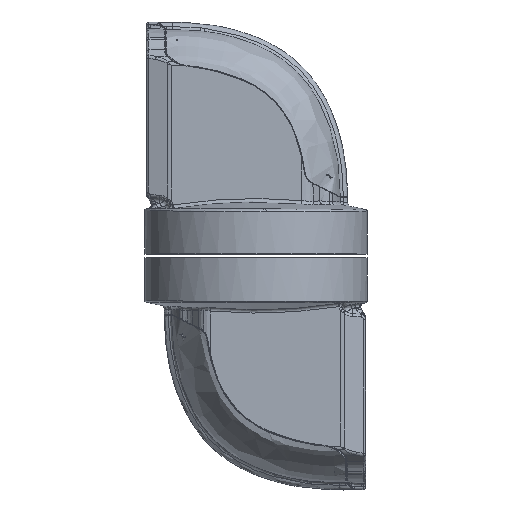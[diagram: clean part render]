
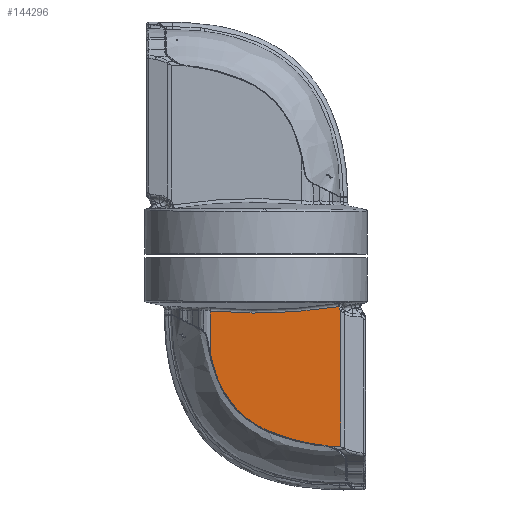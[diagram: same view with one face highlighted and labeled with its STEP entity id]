
A CAD part, top view. The second image highlights one B-rep face of the part: STEP entity #144296.
In plain terms, the highlighted planar face has unit normal (0, -0.009, 1) as drawn and (-0.009, 0, 1) by its records, which use the part's own axes.
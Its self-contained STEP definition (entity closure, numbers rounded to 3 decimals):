
#1150 = CIRCLE ( 'NONE', #125963, 284.104 ) ;
#4521 = ORIENTED_EDGE ( 'NONE', *, *, #262889, .T. ) ;
#5500 = VERTEX_POINT ( 'NONE', #189552 ) ;
#12363 = CARTESIAN_POINT ( 'NONE',  ( 117.274, -110.392, 13.677 ) ) ;
#16146 = EDGE_CURVE ( 'NONE', #22132, #228820, #1150, .T. ) ;
#17078 = CARTESIAN_POINT ( 'NONE',  ( 180.65, -157.91, 14.23 ) ) ;
#18292 = LINE ( 'NONE', #270358, #164210 ) ;
#19284 = CARTESIAN_POINT ( 'NONE',  ( 149.772, -89.061, 13.96 ) ) ;
#19419 = CARTESIAN_POINT ( 'NONE',  ( 112.494, -120.004, 13.635 ) ) ;
#20485 = CARTESIAN_POINT ( 'NONE',  ( 108.59, -129.394, 13.601 ) ) ;
#22132 = VERTEX_POINT ( 'NONE', #153492 ) ;
#23012 = CARTESIAN_POINT ( 'NONE',  ( 104.904, -149.394, 13.569 ) ) ;
#24740 = CARTESIAN_POINT ( 'NONE',  ( 106.035, -139.289, 13.579 ) ) ;
#24773 = CARTESIAN_POINT ( 'NONE',  ( 112.494, -120.004, 13.635 ) ) ;
#40847 = EDGE_CURVE ( 'NONE', #268367, #22132, #224384, .T. ) ;
#44566 = CARTESIAN_POINT ( 'NONE',  ( 149.135, -89.242, 13.955 ) ) ;
#55211 = CARTESIAN_POINT ( 'NONE',  ( 135.582, -94.157, 13.837 ) ) ;
#57616 = CARTESIAN_POINT ( 'NONE',  ( 461.242, -113.445, 16.678 ) ) ;
#60312 = EDGE_CURVE ( 'NONE', #324119, #5500, #18292, .T. ) ;
#63071 = VECTOR ( 'NONE', #290461, 1000. ) ;
#63783 = CARTESIAN_POINT ( 'NONE',  ( 154.84, -87.795, 14.005 ) ) ;
#67715 = DIRECTION ( 'NONE',  ( 0., -1., 0. ) ) ;
#69841 = CARTESIAN_POINT ( 'NONE',  ( 154.84, -87.795, 14.005 ) ) ;
#70889 = DIRECTION ( 'NONE',  ( -0.009, 0., 1. ) ) ;
#71306 = ORIENTED_EDGE ( 'NONE', *, *, #203319, .T. ) ;
#71973 = CARTESIAN_POINT ( 'NONE',  ( 104.365, -152.434, 13.564 ) ) ;
#75044 = CARTESIAN_POINT ( 'NONE',  ( 179.18, -158.634, 14.217 ) ) ;
#75365 = CARTESIAN_POINT ( 'NONE',  ( 104.904, -149.394, 13.569 ) ) ;
#87172 = B_SPLINE_CURVE_WITH_KNOTS ( 'NONE', 3,
 ( #308015, #260696, #108793, #131930 ),
 .UNSPECIFIED., .F., .F.,
 ( 4, 4 ),
 ( 0., 1. ),
 .UNSPECIFIED. ) ;
#98315 = B_SPLINE_CURVE_WITH_KNOTS ( 'NONE', 3,
 ( #69841, #199595, #144688, #120454, #19284, #195344, #44566, #123654, #271245, #296505, #145767, #321866, #273380 ),
 .UNSPECIFIED., .F., .F.,
 ( 4, 1, 1, 1, 1, 1, 2, 2, 4 ),
 ( 0., 0.25, 0.375, 0.438, 0.469, 0.484, 0.492, 0.5, 1. ),
 .UNSPECIFIED. ) ;
#105254 = CARTESIAN_POINT ( 'NONE',  ( 104.79, -150.416, 13.568 ) ) ;
#108793 = CARTESIAN_POINT ( 'NONE',  ( 141.709, -91.747, 13.89 ) ) ;
#112432 = VERTEX_POINT ( 'NONE', #23012 ) ;
#113112 = ORIENTED_EDGE ( 'NONE', *, *, #324383, .T. ) ;
#116495 = CARTESIAN_POINT ( 'NONE',  ( 143.044, -91.233, 13.901 ) ) ;
#119913 = EDGE_CURVE ( 'NONE', #228820, #324119, #186478, .T. ) ;
#120454 = CARTESIAN_POINT ( 'NONE',  ( 150.625, -88.825, 13.968 ) ) ;
#123632 = DIRECTION ( 'NONE',  ( 0., -1., 0. ) ) ;
#123654 = CARTESIAN_POINT ( 'NONE',  ( 149.044, -89.269, 13.954 ) ) ;
#125257 = AXIS2_PLACEMENT_3D ( 'NONE', #171109, #70889, #123632 ) ;
#125963 = AXIS2_PLACEMENT_3D ( 'NONE', #57616, #259010, #209490 ) ;
#128165 = VERTEX_POINT ( 'NONE', #24773 ) ;
#131930 = CARTESIAN_POINT ( 'NONE',  ( 141.045, -92.012, 13.884 ) ) ;
#137554 = ORIENTED_EDGE ( 'NONE', *, *, #231304, .T. ) ;
#142312 = CARTESIAN_POINT ( 'NONE',  ( 112.494, -120.004, 13.635 ) ) ;
#142786 = CARTESIAN_POINT ( 'NONE',  ( 113.047, -118.672, 13.64 ) ) ;
#143295 = CARTESIAN_POINT ( 'NONE',  ( 178.538, -159.142, 14.211 ) ) ;
#144296 = ADVANCED_FACE ( 'NONE', ( #180003 ), #246966, .T. ) ;
#144688 = CARTESIAN_POINT ( 'NONE',  ( 152.344, -88.372, 13.983 ) ) ;
#145767 = CARTESIAN_POINT ( 'NONE',  ( 146.868, -89.899, 13.935 ) ) ;
#148585 = CARTESIAN_POINT ( 'NONE',  ( 141.045, -92.012, 13.884 ) ) ;
#148894 = ORIENTED_EDGE ( 'NONE', *, *, #40847, .F. ) ;
#149158 = VECTOR ( 'NONE', #67715, 1000. ) ;
#153492 = CARTESIAN_POINT ( 'NONE',  ( 178.309, -87.795, 14.209 ) ) ;
#156070 = CARTESIAN_POINT ( 'NONE',  ( 121.271, -105.304, 13.712 ) ) ;
#163491 = B_SPLINE_CURVE_WITH_KNOTS ( 'NONE', 3,
 ( #279768, #55211, #271837, #156070, #12363, #298196, #142786, #142312 ),
 .UNSPECIFIED., .F., .F.,
 ( 4, 2, 2, 4 ),
 ( 0., 0.428, 0.895, 1. ),
 .UNSPECIFIED. ) ;
#164210 = VECTOR ( 'NONE', #295639, 1000. ) ;
#170306 = EDGE_CURVE ( 'NONE', #313970, #128165, #163491, .T. ) ;
#171109 = CARTESIAN_POINT ( 'NONE',  ( 183.943, -119.631, 14.259 ) ) ;
#180003 = FACE_OUTER_BOUND ( 'NONE', #195769, .T. ) ;
#181255 = CARTESIAN_POINT ( 'NONE',  ( 104.365, -152.434, 13.564 ) ) ;
#186478 = B_SPLINE_CURVE_WITH_KNOTS ( 'NONE', 3,
 ( #245607, #302824, #75044, #143295 ),
 .UNSPECIFIED., .F., .F.,
 ( 4, 4 ),
 ( 0., 1. ),
 .UNSPECIFIED. ) ;
#189552 = CARTESIAN_POINT ( 'NONE',  ( 104.365, -159.142, 13.564 ) ) ;
#195344 = CARTESIAN_POINT ( 'NONE',  ( 149.347, -89.182, 13.957 ) ) ;
#195769 = EDGE_LOOP ( 'NONE', ( #148894, #4521, #280450, #217448, #113112, #71306, #137554, #286335, #296479, #284994 ) ) ;
#199595 = CARTESIAN_POINT ( 'NONE',  ( 153.836, -88.017, 13.996 ) ) ;
#201227 = CARTESIAN_POINT ( 'NONE',  ( 178.538, -159.142, 14.211 ) ) ;
#203319 = EDGE_CURVE ( 'NONE', #112432, #262892, #224861, .T. ) ;
#209490 = DIRECTION ( 'NONE',  ( -0.996, 0.09, -0.009 ) ) ;
#216236 = LINE ( 'NONE', #244864, #149158 ) ;
#217448 = ORIENTED_EDGE ( 'NONE', *, *, #170306, .T. ) ;
#224384 = LINE ( 'NONE', #63783, #63071 ) ;
#224861 = B_SPLINE_CURVE_WITH_KNOTS ( 'NONE', 3,
 ( #283551, #105254, #232897, #181255 ),
 .UNSPECIFIED., .F., .F.,
 ( 4, 4 ),
 ( 0., 1. ),
 .UNSPECIFIED. ) ;
#228820 = VERTEX_POINT ( 'NONE', #17078 ) ;
#231304 = EDGE_CURVE ( 'NONE', #262892, #5500, #216236, .T. ) ;
#232897 = CARTESIAN_POINT ( 'NONE',  ( 104.613, -151.435, 13.566 ) ) ;
#237425 = B_SPLINE_CURVE_WITH_KNOTS ( 'NONE', 3,
 ( #19419, #20485, #24740, #75365 ),
 .UNSPECIFIED., .F., .F.,
 ( 4, 4 ),
 ( 0., 1. ),
 .UNSPECIFIED. ) ;
#244864 = CARTESIAN_POINT ( 'NONE',  ( 104.365, -152.434, 13.564 ) ) ;
#245607 = CARTESIAN_POINT ( 'NONE',  ( 180.65, -157.91, 14.23 ) ) ;
#246966 = PLANE ( 'NONE',  #125257 ) ;
#257128 = VERTEX_POINT ( 'NONE', #116495 ) ;
#259010 = DIRECTION ( 'NONE',  ( -0.009, 0., 1. ) ) ;
#260696 = CARTESIAN_POINT ( 'NONE',  ( 142.376, -91.49, 13.896 ) ) ;
#262889 = EDGE_CURVE ( 'NONE', #268367, #257128, #98315, .T. ) ;
#262892 = VERTEX_POINT ( 'NONE', #71973 ) ;
#268367 = VERTEX_POINT ( 'NONE', #280454 ) ;
#270358 = CARTESIAN_POINT ( 'NONE',  ( 178.538, -159.142, 14.211 ) ) ;
#271245 = CARTESIAN_POINT ( 'NONE',  ( 148.983, -89.286, 13.953 ) ) ;
#271837 = CARTESIAN_POINT ( 'NONE',  ( 130.529, -97.226, 13.792 ) ) ;
#273380 = CARTESIAN_POINT ( 'NONE',  ( 143.044, -91.233, 13.901 ) ) ;
#279768 = CARTESIAN_POINT ( 'NONE',  ( 141.045, -92.012, 13.884 ) ) ;
#280450 = ORIENTED_EDGE ( 'NONE', *, *, #288852, .T. ) ;
#280454 = CARTESIAN_POINT ( 'NONE',  ( 154.84, -87.795, 14.005 ) ) ;
#283551 = CARTESIAN_POINT ( 'NONE',  ( 104.904, -149.394, 13.569 ) ) ;
#284994 = ORIENTED_EDGE ( 'NONE', *, *, #16146, .F. ) ;
#286335 = ORIENTED_EDGE ( 'NONE', *, *, #60312, .F. ) ;
#288852 = EDGE_CURVE ( 'NONE', #257128, #313970, #87172, .T. ) ;
#290461 = DIRECTION ( 'NONE',  ( 1., 0., 0.009 ) ) ;
#295639 = DIRECTION ( 'NONE',  ( -1., 0., -0.009 ) ) ;
#296479 = ORIENTED_EDGE ( 'NONE', *, *, #119913, .F. ) ;
#296505 = CARTESIAN_POINT ( 'NONE',  ( 148.955, -89.294, 13.953 ) ) ;
#298196 = CARTESIAN_POINT ( 'NONE',  ( 113.657, -117.365, 13.645 ) ) ;
#302824 = CARTESIAN_POINT ( 'NONE',  ( 179.891, -158.219, 14.223 ) ) ;
#308015 = CARTESIAN_POINT ( 'NONE',  ( 143.044, -91.233, 13.901 ) ) ;
#313970 = VERTEX_POINT ( 'NONE', #148585 ) ;
#321866 = CARTESIAN_POINT ( 'NONE',  ( 144.909, -90.545, 13.918 ) ) ;
#324119 = VERTEX_POINT ( 'NONE', #201227 ) ;
#324383 = EDGE_CURVE ( 'NONE', #128165, #112432, #237425, .T. ) ;
